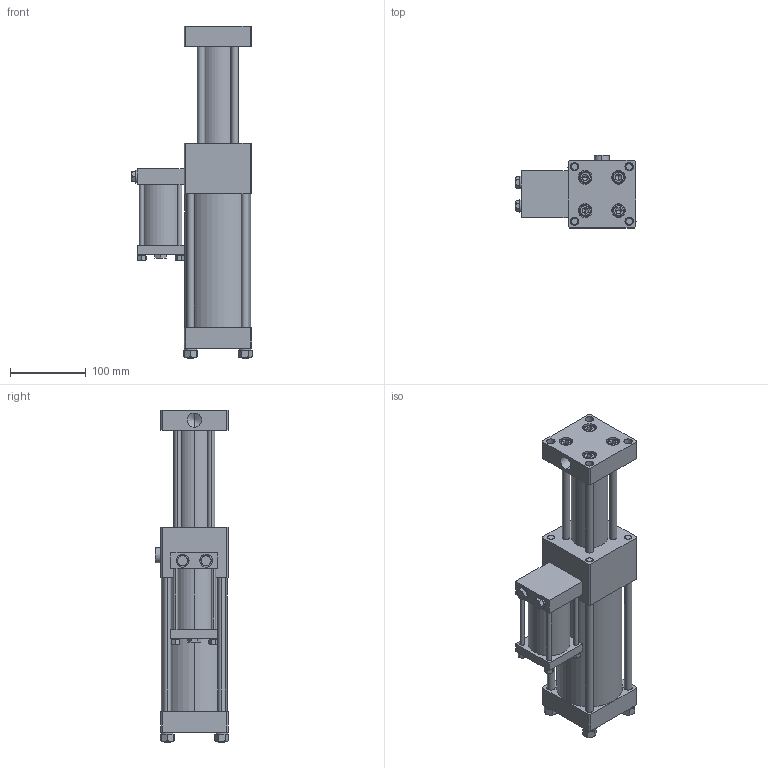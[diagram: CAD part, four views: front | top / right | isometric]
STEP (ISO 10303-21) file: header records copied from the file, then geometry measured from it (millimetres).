
FILE_DESCRIPTION (( 'STEP AP203' ), '1' );
FILE_NAME ('1320 040 050.STEP', '2016-02-22T07:30:15', ( 'Admin' ), ( '' ), 'SwSTEP 2.0', 'SolidWorks 2015', '' );
FILE_SCHEMA (( 'CONFIG_CONTROL_DESIGN' ));
Length unit declared in the file: millimetre
Products named in the file (10): hexagon nut_is1_IS 1363-2 - M6-N; spring lock washer 6735_is_IS 6735- 10; hexagon nut_is1_IS 1363-2 - M10-N; hhb(grade a)_is_IS 1364 HHB(Grade A) - M8 x 40 x 22-N; 1320_1320 040 050; plain washer (type a)_is_IS 2016 A- 9; spring lock washer 6735_is_IS 6735- 6; spring lock washer 6735_is1_IS 6735- 10; socket head cap screw_is_IS 2269 - M10 x 16-N; 1320 040 050
Assembly tree (29 placements, depth 2):
  1320 040 050
    1320_1320 040 050
    spring lock washer 6735_is_IS 6735- 6  x4
    hexagon nut_is1_IS 1363-2 - M6-N  x4
    spring lock washer 6735_is_IS 6735- 10  x4
    hexagon nut_is1_IS 1363-2 - M10-N  x4
    hhb(grade a)_is_IS 1364 HHB(Grade A) - M8 x 40 x 22-N  x2
    plain washer (type a)_is_IS 2016 A- 9  x2
    spring lock washer 6735_is1_IS 6735- 10  x4
    socket head cap screw_is_IS 2269 - M10 x 16-N  x4
Bounding box: 158.64 x 96.74 x 438 mm (x, y, z)
Volume: 2769650.5 mm3; surface area: 296700.4 mm2
Topology: 34 solids, 34 shells, 744 faces, 1708 edges, 1057 vertices
Faces by surface type: plane 290, cylinder 220, cone 182, bspline 44, torus 8
Entity records: 12411 total; most frequent: CARTESIAN_POINT 2407, DIRECTION 1848, ORIENTED_EDGE 1652, EDGE_CURVE 826, AXIS2_PLACEMENT_3D 736, VERTEX_POINT 525, EDGE_LOOP 447, LINE 376
